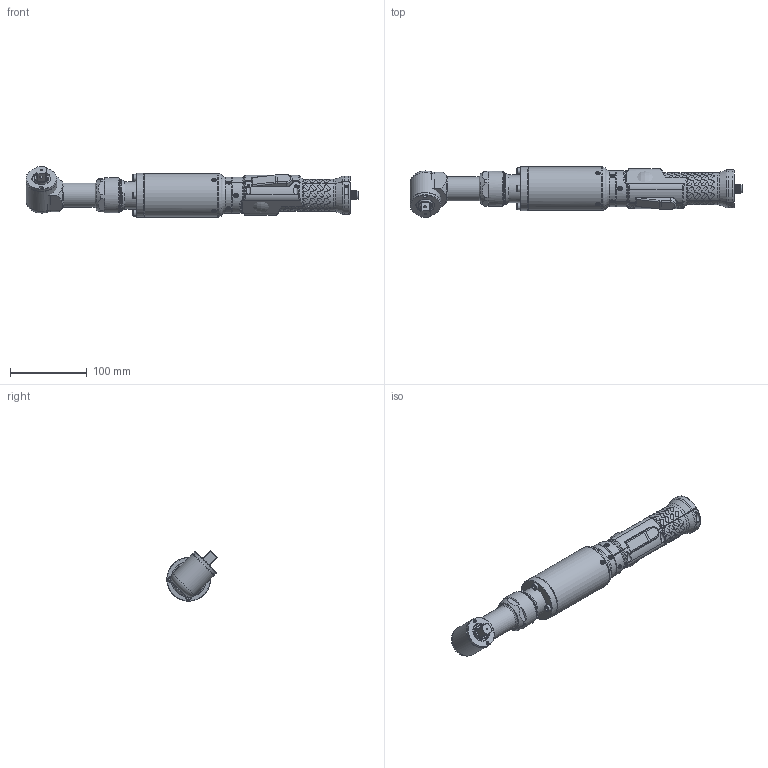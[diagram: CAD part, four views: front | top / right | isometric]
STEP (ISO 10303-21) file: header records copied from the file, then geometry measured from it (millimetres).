
FILE_DESCRIPTION (( 'STEP AP214' ), '1' );
FILE_NAME ('133246 PLUTO45ANG SCREWDRIVER 12'''' Plastica.STEP', '2026-04-16T09:32:33', ( '' ), ( '' ), 'SwSTEP 2.0', 'SolidWorks 2024', '' );
FILE_SCHEMA (( 'AUTOMOTIVE_DESIGN' ));
Length unit declared in the file: millimetre
Products named in the file (1): 133246  PLUTO45ANG SCREWDRIVER 12'''' Plastica
Bounding box: 433.3 x 65.57 x 65.57 mm (x, y, z)
Surface area: 90971.5 mm2 (no closed solid volume)
Topology: 0 solids, 46 shells, 871 faces, 2766 edges, 1872 vertices
Faces by surface type: bspline 299, cylinder 283, plane 182, cone 61, torus 43, sphere 3
Full cylindrical faces by diameter (mm): 1 x7, 4 x2, 4.2 x1, 5.5 x11, 6 x6, 7 x1, 8.3 x1, 8.4 x4, 9.4 x1, 9.5 x1, 17 x1, 18 x1, 24.2 x1, 32 x1, 35 x1, 35.5 x1, 36 x1, 40 x2, 46 x1, 47 x1, 57 x3
Entity records: 84848 total; most frequent: CARTESIAN_POINT 55235, ORIENTED_EDGE 4098, DIRECTION 3199, EDGE_CURVE 2581, VERTEX_POINT 1810, AXIS2_PLACEMENT_3D 1318, B_SPLINE_CURVE_WITH_KNOTS 1216, EDGE_LOOP 1109
